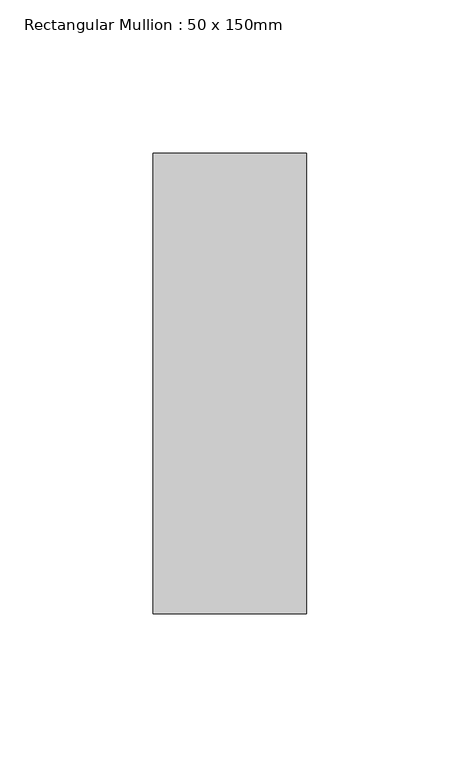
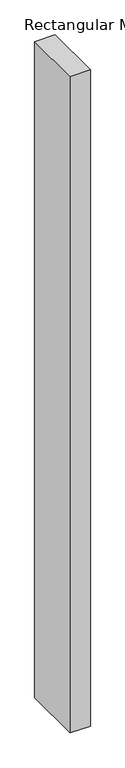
"""IFC4 building model written with IfcOpenShell, lengths in millimetres: member geometry, Rectangular Mullion : 50 x 150mm."""

from ifc_helpers import new_model, si_unit, frame, origin, place, context, project, spatial, polyline, outline, extrude, source, transform, mapped, element, save


def rectangular_mullion_50_x_150mm_46478213(model_context):
    return source(origin(), model_context, "Body", "SweptSolid", [
        extrude(outline(polyline([(0.0, 0.0), (-0.1510746, -50.0), (-1704.3039385, -50.0), (-1704.6342523, 0.0), (0.0, 0.0)])), frame((0.0, -75.0, 0.0), z_axis=(0.0, 1.0, 0.0), x_axis=(0.0, 0.0, 1.0)), (0.0, 0.0, 1.0), 150.0),
    ])


if __name__ == "__main__":
    model = new_model("IFC4")
    model_context = context("Model", 3, world=origin())
    ifc_project = project(units=[si_unit("LENGTHUNIT", "METRE", prefix="MILLI")], contexts=[model_context])
    site = spatial("IfcSite", under=ifc_project)
    building = spatial("IfcBuilding", under=site)
    placement = place(None, origin())
    rectangular_mullion_50_x_150mm_shape = rectangular_mullion_50_x_150mm_46478213(model_context)
    element("IfcMember", 1, ObjectType="Rectangular Mullion : 50 x 150mm", at=placement, inside=building, context=model_context, shape_type="MappedRepresentation", body=[
        mapped(rectangular_mullion_50_x_150mm_shape, transform((0.0, 0.0, 0.0), x_axis=(1.0, 0.0, 0.0), y_axis=(0.0, 1.0, 0.0), z_axis=(0.0, 0.0, 1.0))),
    ])
    save(model, "model.ifc")
